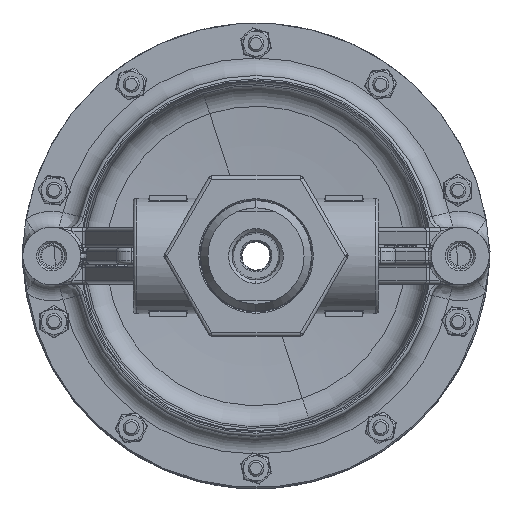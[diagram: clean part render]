
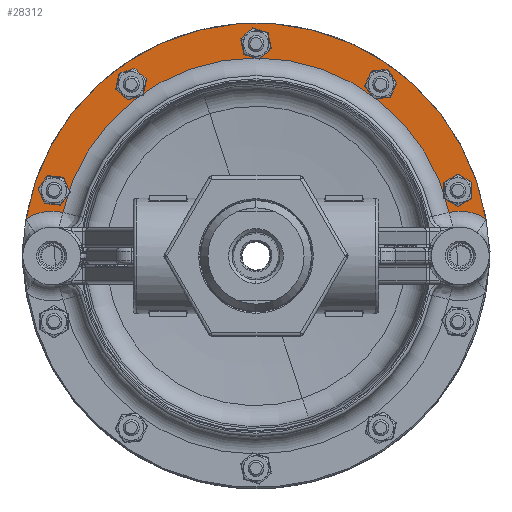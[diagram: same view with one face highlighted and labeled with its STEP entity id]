
A CAD part, front view. The second image highlights one B-rep face of the part: STEP entity #28312.
In plain terms, the highlighted planar face has unit normal (0, -1, 0) as drawn and (0, 0, -1) by its records, which use the part's own axes.
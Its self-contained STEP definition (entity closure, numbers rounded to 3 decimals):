
#1203 = CARTESIAN_POINT ( 'NONE',  ( -1.947, -2.68, 0. ) ) ;
#1204 = DIRECTION ( 'NONE',  ( 0., 0., 1. ) ) ;
#1205 = DIRECTION ( 'NONE',  ( 1., 0., 0. ) ) ;
#2871 = CARTESIAN_POINT ( 'NONE',  ( 0., -3.313, 0. ) ) ;
#2872 = DIRECTION ( 'NONE',  ( 0., 0., 1. ) ) ;
#2873 = DIRECTION ( 'NONE',  ( 1., 0., 0. ) ) ;
#2941 = CARTESIAN_POINT ( 'NONE',  ( 1.947, -2.68, 0. ) ) ;
#2942 = DIRECTION ( 'NONE',  ( 0., 0., 1. ) ) ;
#2943 = DIRECTION ( 'NONE',  ( 1., 0., 0. ) ) ;
#3009 = CARTESIAN_POINT ( 'NONE',  ( 3.15, -1.024, 0. ) ) ;
#3010 = DIRECTION ( 'NONE',  ( 0., 0., 1. ) ) ;
#3011 = DIRECTION ( 'NONE',  ( 1., 0., 0. ) ) ;
#5051 = CARTESIAN_POINT ( 'NONE',  ( 3.15, -1.024, 0. ) ) ;
#5052 = DIRECTION ( 'NONE',  ( 0., 0., 1. ) ) ;
#5053 = DIRECTION ( 'NONE',  ( 1., 0., 0. ) ) ;
#5054 = CARTESIAN_POINT ( 'NONE',  ( 1.947, -2.68, 0. ) ) ;
#5055 = DIRECTION ( 'NONE',  ( 0., 0., 1. ) ) ;
#5056 = DIRECTION ( 'NONE',  ( 1., 0., 0. ) ) ;
#5057 = CARTESIAN_POINT ( 'NONE',  ( 0., -3.313, 0. ) ) ;
#5058 = DIRECTION ( 'NONE',  ( 0., 0., 1. ) ) ;
#5059 = DIRECTION ( 'NONE',  ( 1., 0., 0. ) ) ;
#5060 = CARTESIAN_POINT ( 'NONE',  ( -1.947, -2.68, 0. ) ) ;
#5061 = DIRECTION ( 'NONE',  ( 0., 0., 1. ) ) ;
#5062 = DIRECTION ( 'NONE',  ( 1., 0., 0. ) ) ;
#5063 = CARTESIAN_POINT ( 'NONE',  ( -3.15, -1.024, 0. ) ) ;
#5064 = DIRECTION ( 'NONE',  ( 0., 0., 1. ) ) ;
#5065 = DIRECTION ( 'NONE',  ( 1., 0., 0. ) ) ;
#5066 = CARTESIAN_POINT ( 'NONE',  ( 3.188, 0., 0. ) ) ;
#5067 = DIRECTION ( 'NONE',  ( 0., 0., 1. ) ) ;
#5068 = DIRECTION ( 'NONE',  ( 1., 0., 0. ) ) ;
#5069 = CARTESIAN_POINT ( 'NONE',  ( 0., 0., 0. ) ) ;
#5070 = DIRECTION ( 'NONE',  ( 0., 0., -1. ) ) ;
#5071 = DIRECTION ( 'NONE',  ( 1., 0., 0. ) ) ;
#5072 = CARTESIAN_POINT ( 'NONE',  ( -3.188, 0., 0. ) ) ;
#5073 = DIRECTION ( 'NONE',  ( 0., 0., 1. ) ) ;
#5074 = DIRECTION ( 'NONE',  ( 1., 0., 0. ) ) ;
#5075 = CARTESIAN_POINT ( 'NONE',  ( 0., 0., 0. ) ) ;
#5076 = DIRECTION ( 'NONE',  ( 0., 0., 1. ) ) ;
#5077 = DIRECTION ( 'NONE',  ( 1., 0., 0. ) ) ;
#8114 = AXIS2_PLACEMENT_3D ( 'NONE', #24524, #24525, #24527 ) ;
#9012 = AXIS2_PLACEMENT_3D ( 'NONE', #52210, #52191, #52214 ) ;
#10045 = AXIS2_PLACEMENT_3D ( 'NONE', #1203, #1204, #1205 ) ;
#10060 = AXIS2_PLACEMENT_3D ( 'NONE', #2871, #2872, #2873 ) ;
#10076 = AXIS2_PLACEMENT_3D ( 'NONE', #2941, #2942, #2943 ) ;
#10092 = AXIS2_PLACEMENT_3D ( 'NONE', #3009, #3010, #3011 ) ;
#10532 = AXIS2_PLACEMENT_3D ( 'NONE', #5051, #5052, #5053 ) ;
#10534 = AXIS2_PLACEMENT_3D ( 'NONE', #5054, #5055, #5056 ) ;
#10536 = AXIS2_PLACEMENT_3D ( 'NONE', #5057, #5058, #5059 ) ;
#10538 = AXIS2_PLACEMENT_3D ( 'NONE', #5060, #5061, #5062 ) ;
#10540 = AXIS2_PLACEMENT_3D ( 'NONE', #5063, #5064, #5065 ) ;
#10542 = AXIS2_PLACEMENT_3D ( 'NONE', #5066, #5067, #5068 ) ;
#10544 = AXIS2_PLACEMENT_3D ( 'NONE', #5069, #5070, #5071 ) ;
#10546 = AXIS2_PLACEMENT_3D ( 'NONE', #5072, #5073, #5074 ) ;
#10548 = AXIS2_PLACEMENT_3D ( 'NONE', #5075, #5076, #5077 ) ;
#14699 = CARTESIAN_POINT ( 'NONE',  ( 3.015, -0.678, 0. ) ) ;
#14700 = CARTESIAN_POINT ( 'NONE',  ( 3.587, -0.575, 0. ) ) ;
#14704 = CARTESIAN_POINT ( 'NONE',  ( -3.587, -0.575, 0. ) ) ;
#14705 = CARTESIAN_POINT ( 'NONE',  ( -3.015, -0.678, 0. ) ) ;
#24524 = CARTESIAN_POINT ( 'NONE',  ( -3.15, -1.024, 0. ) ) ;
#24525 = DIRECTION ( 'NONE',  ( 0., 0., 1. ) ) ;
#24527 = DIRECTION ( 'NONE',  ( 1., 0., 0. ) ) ;
#27968 = EDGE_CURVE ( 'NONE', #49236, #49238, #33876, .T. ) ;
#28312 = ADVANCED_FACE ( 'NONE', ( #34456, #34467, #34465, #34466, #34408, #34468 ), #52209, .F. ) ;
#33876 = CIRCLE ( 'NONE', #8114, 0.161 ) ;
#34408 = FACE_BOUND ( 'NONE', #36338, .T. ) ;
#34456 = FACE_BOUND ( 'NONE', #36329, .T. ) ;
#34465 = FACE_BOUND ( 'NONE', #36442, .T. ) ;
#34466 = FACE_BOUND ( 'NONE', #36333, .T. ) ;
#34467 = FACE_BOUND ( 'NONE', #36279, .T. ) ;
#34468 = FACE_OUTER_BOUND ( 'NONE', #36339, .T. ) ;
#35141 = EDGE_CURVE ( 'NONE', #46747, #46748, #79255, .T. ) ;
#35161 = EDGE_CURVE ( 'NONE', #46767, #46768, #79280, .T. ) ;
#35182 = EDGE_CURVE ( 'NONE', #46788, #46789, #79312, .T. ) ;
#35203 = EDGE_CURVE ( 'NONE', #46809, #46810, #79343, .T. ) ;
#35482 = EDGE_CURVE ( 'NONE', #46810, #46809, #79945, .T. ) ;
#35483 = EDGE_CURVE ( 'NONE', #46789, #46788, #79946, .T. ) ;
#35484 = EDGE_CURVE ( 'NONE', #46768, #46767, #79948, .T. ) ;
#35485 = EDGE_CURVE ( 'NONE', #46748, #46747, #79950, .T. ) ;
#35486 = EDGE_CURVE ( 'NONE', #49238, #49236, #79952, .T. ) ;
#35487 = EDGE_CURVE ( 'NONE', #37182, #37183, #79954, .T. ) ;
#35488 = EDGE_CURVE ( 'NONE', #37183, #37188, #79939, .T. ) ;
#35489 = EDGE_CURVE ( 'NONE', #37188, #37189, #79958, .T. ) ;
#35490 = EDGE_CURVE ( 'NONE', #37189, #37182, #79960, .T. ) ;
#36279 = EDGE_LOOP ( 'NONE', ( #47194, #47195 ) ) ;
#36329 = EDGE_LOOP ( 'NONE', ( #47192, #47193 ) ) ;
#36333 = EDGE_LOOP ( 'NONE', ( #47198, #47199 ) ) ;
#36338 = EDGE_LOOP ( 'NONE', ( #47200, #47201 ) ) ;
#36339 = EDGE_LOOP ( 'NONE', ( #47202, #47203, #47204, #47205 ) ) ;
#36442 = EDGE_LOOP ( 'NONE', ( #47196, #47197 ) ) ;
#37182 = VERTEX_POINT ( 'NONE', #14699 ) ;
#37183 = VERTEX_POINT ( 'NONE', #14700 ) ;
#37188 = VERTEX_POINT ( 'NONE', #14704 ) ;
#37189 = VERTEX_POINT ( 'NONE', #14705 ) ;
#46747 = VERTEX_POINT ( 'NONE', #70079 ) ;
#46748 = VERTEX_POINT ( 'NONE', #70080 ) ;
#46767 = VERTEX_POINT ( 'NONE', #70096 ) ;
#46768 = VERTEX_POINT ( 'NONE', #70097 ) ;
#46788 = VERTEX_POINT ( 'NONE', #70117 ) ;
#46789 = VERTEX_POINT ( 'NONE', #70118 ) ;
#46809 = VERTEX_POINT ( 'NONE', #70138 ) ;
#46810 = VERTEX_POINT ( 'NONE', #70139 ) ;
#47192 = ORIENTED_EDGE ( 'NONE', *, *, #35203, .T. ) ;
#47193 = ORIENTED_EDGE ( 'NONE', *, *, #35482, .T. ) ;
#47194 = ORIENTED_EDGE ( 'NONE', *, *, #35182, .T. ) ;
#47195 = ORIENTED_EDGE ( 'NONE', *, *, #35483, .T. ) ;
#47196 = ORIENTED_EDGE ( 'NONE', *, *, #35161, .T. ) ;
#47197 = ORIENTED_EDGE ( 'NONE', *, *, #35484, .T. ) ;
#47198 = ORIENTED_EDGE ( 'NONE', *, *, #35141, .T. ) ;
#47199 = ORIENTED_EDGE ( 'NONE', *, *, #35485, .T. ) ;
#47200 = ORIENTED_EDGE ( 'NONE', *, *, #27968, .T. ) ;
#47201 = ORIENTED_EDGE ( 'NONE', *, *, #35486, .T. ) ;
#47202 = ORIENTED_EDGE ( 'NONE', *, *, #35487, .T. ) ;
#47203 = ORIENTED_EDGE ( 'NONE', *, *, #35488, .T. ) ;
#47204 = ORIENTED_EDGE ( 'NONE', *, *, #35489, .T. ) ;
#47205 = ORIENTED_EDGE ( 'NONE', *, *, #35490, .T. ) ;
#49236 = VERTEX_POINT ( 'NONE', #70651 ) ;
#49238 = VERTEX_POINT ( 'NONE', #70653 ) ;
#52191 = DIRECTION ( 'NONE',  ( 0., 0., 1. ) ) ;
#52209 = PLANE ( 'NONE',  #9012 ) ;
#52210 = CARTESIAN_POINT ( 'NONE',  ( 0., 3.688, 0. ) ) ;
#52214 = DIRECTION ( 'NONE',  ( 1., 0., 0. ) ) ;
#70079 = CARTESIAN_POINT ( 'NONE',  ( -2.108, -2.68, 0. ) ) ;
#70080 = CARTESIAN_POINT ( 'NONE',  ( -1.786, -2.68, 0. ) ) ;
#70096 = CARTESIAN_POINT ( 'NONE',  ( -0.161, -3.313, 0. ) ) ;
#70097 = CARTESIAN_POINT ( 'NONE',  ( 0.161, -3.313, 0. ) ) ;
#70117 = CARTESIAN_POINT ( 'NONE',  ( 1.786, -2.68, 0. ) ) ;
#70118 = CARTESIAN_POINT ( 'NONE',  ( 2.108, -2.68, 0. ) ) ;
#70138 = CARTESIAN_POINT ( 'NONE',  ( 2.99, -1.024, 0. ) ) ;
#70139 = CARTESIAN_POINT ( 'NONE',  ( 3.311, -1.024, 0. ) ) ;
#70651 = CARTESIAN_POINT ( 'NONE',  ( -3.311, -1.024, 0. ) ) ;
#70653 = CARTESIAN_POINT ( 'NONE',  ( -2.99, -1.024, 0. ) ) ;
#79255 = CIRCLE ( 'NONE', #10045, 0.161 ) ;
#79280 = CIRCLE ( 'NONE', #10060, 0.161 ) ;
#79312 = CIRCLE ( 'NONE', #10076, 0.161 ) ;
#79343 = CIRCLE ( 'NONE', #10092, 0.161 ) ;
#79939 = CIRCLE ( 'NONE', #10544, 3.632 ) ;
#79945 = CIRCLE ( 'NONE', #10532, 0.161 ) ;
#79946 = CIRCLE ( 'NONE', #10534, 0.161 ) ;
#79948 = CIRCLE ( 'NONE', #10536, 0.161 ) ;
#79950 = CIRCLE ( 'NONE', #10538, 0.161 ) ;
#79952 = CIRCLE ( 'NONE', #10540, 0.161 ) ;
#79954 = CIRCLE ( 'NONE', #10542, 0.7 ) ;
#79958 = CIRCLE ( 'NONE', #10546, 0.7 ) ;
#79960 = CIRCLE ( 'NONE', #10548, 3.09 ) ;
